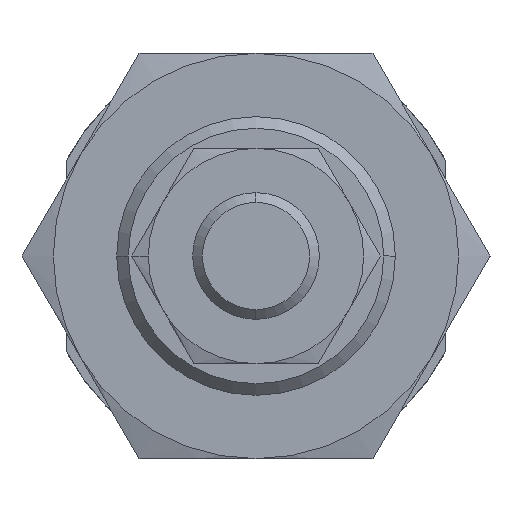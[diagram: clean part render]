
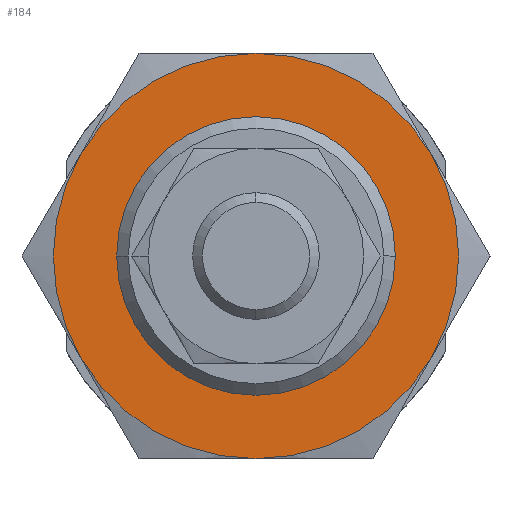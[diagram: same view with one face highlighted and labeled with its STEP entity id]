
A CAD part, left-side view. The second image highlights one B-rep face of the part: STEP entity #184.
In plain terms, the highlighted planar face has unit normal (-1, 0, 0).
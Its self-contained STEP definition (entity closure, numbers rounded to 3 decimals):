
#102 = PLANE ( 'NONE',  #3250 ) ;
#184 = ADVANCED_FACE ( 'NONE', ( #3444, #765 ), #102, .T. ) ;
#237 = CIRCLE ( 'NONE', #852, 16. ) ;
#298 = AXIS2_PLACEMENT_3D ( 'NONE', #684, #743, #3373 ) ;
#320 = CARTESIAN_POINT ( 'NONE',  ( -17.5, 0., 11. ) ) ;
#445 = DIRECTION ( 'NONE',  ( 0., 0., -1. ) ) ;
#526 = CARTESIAN_POINT ( 'NONE',  ( -17.5, 0., 0. ) ) ;
#673 = VERTEX_POINT ( 'NONE', #4201 ) ;
#684 = CARTESIAN_POINT ( 'NONE',  ( -17.5, 0., 0. ) ) ;
#707 = AXIS2_PLACEMENT_3D ( 'NONE', #526, #2490, #3765 ) ;
#716 = EDGE_CURVE ( 'NONE', #3358, #3014, #1606, .T. ) ;
#743 = DIRECTION ( 'NONE',  ( 1., 0., 0. ) ) ;
#765 = FACE_BOUND ( 'NONE', #1769, .T. ) ;
#852 = AXIS2_PLACEMENT_3D ( 'NONE', #2448, #1792, #3512 ) ;
#881 = ORIENTED_EDGE ( 'NONE', *, *, #716, .F. ) ;
#1041 = CARTESIAN_POINT ( 'NONE',  ( -17.5, 0., -16. ) ) ;
#1115 = CARTESIAN_POINT ( 'NONE',  ( -17.5, 16., 0. ) ) ;
#1143 = ORIENTED_EDGE ( 'NONE', *, *, #3553, .T. ) ;
#1170 = CARTESIAN_POINT ( 'NONE',  ( -17.5, 0., 0. ) ) ;
#1273 = ORIENTED_EDGE ( 'NONE', *, *, #2806, .F. ) ;
#1285 = EDGE_CURVE ( 'NONE', #673, #3358, #1611, .T. ) ;
#1395 = ORIENTED_EDGE ( 'NONE', *, *, #2113, .F. ) ;
#1475 = AXIS2_PLACEMENT_3D ( 'NONE', #1170, #3785, #3458 ) ;
#1541 = EDGE_CURVE ( 'NONE', #3383, #1619, #3258, .T. ) ;
#1570 = CARTESIAN_POINT ( 'NONE',  ( -17.5, 0., 0. ) ) ;
#1606 = CIRCLE ( 'NONE', #4229, 16. ) ;
#1611 = CIRCLE ( 'NONE', #298, 16. ) ;
#1619 = VERTEX_POINT ( 'NONE', #320 ) ;
#1702 = ORIENTED_EDGE ( 'NONE', *, *, #4120, .F. ) ;
#1766 = DIRECTION ( 'NONE',  ( -1., 0., 0. ) ) ;
#1769 = EDGE_LOOP ( 'NONE', ( #1143, #3573 ) ) ;
#1792 = DIRECTION ( 'NONE',  ( 1., 0., 0. ) ) ;
#1841 = DIRECTION ( 'NONE',  ( 0., 0., -1. ) ) ;
#1961 = AXIS2_PLACEMENT_3D ( 'NONE', #2683, #4261, #3929 ) ;
#1997 = DIRECTION ( 'NONE',  ( 1., 0., 0. ) ) ;
#1998 = EDGE_LOOP ( 'NONE', ( #1395, #881, #2968, #1273, #1702, #3168 ) ) ;
#2037 = CARTESIAN_POINT ( 'NONE',  ( -17.5, 13.856, 8. ) ) ;
#2070 = CARTESIAN_POINT ( 'NONE',  ( -17.5, 0., 16. ) ) ;
#2077 = CARTESIAN_POINT ( 'NONE',  ( -17.5, 0., -11. ) ) ;
#2113 = EDGE_CURVE ( 'NONE', #3014, #2368, #3820, .T. ) ;
#2246 = DIRECTION ( 'NONE',  ( 0., 0., -1. ) ) ;
#2256 = DIRECTION ( 'NONE',  ( 1., 0., 0. ) ) ;
#2368 = VERTEX_POINT ( 'NONE', #2037 ) ;
#2394 = DIRECTION ( 'NONE',  ( 0., 0., 1. ) ) ;
#2411 = CARTESIAN_POINT ( 'NONE',  ( -17.5, 0., 0. ) ) ;
#2448 = CARTESIAN_POINT ( 'NONE',  ( -17.5, 0., 0. ) ) ;
#2490 = DIRECTION ( 'NONE',  ( 1., 0., 0. ) ) ;
#2507 = CIRCLE ( 'NONE', #707, 11. ) ;
#2533 = CARTESIAN_POINT ( 'NONE',  ( -17.5, 13.856, -8. ) ) ;
#2683 = CARTESIAN_POINT ( 'NONE',  ( -17.5, 0., 0. ) ) ;
#2806 = EDGE_CURVE ( 'NONE', #3161, #673, #4177, .T. ) ;
#2884 = CARTESIAN_POINT ( 'NONE',  ( -17.5, -13.856, 8. ) ) ;
#2968 = ORIENTED_EDGE ( 'NONE', *, *, #1285, .F. ) ;
#3014 = VERTEX_POINT ( 'NONE', #2533 ) ;
#3161 = VERTEX_POINT ( 'NONE', #2884 ) ;
#3168 = ORIENTED_EDGE ( 'NONE', *, *, #3865, .F. ) ;
#3250 = AXIS2_PLACEMENT_3D ( 'NONE', #1115, #1766, #2394 ) ;
#3258 = CIRCLE ( 'NONE', #4235, 11. ) ;
#3358 = VERTEX_POINT ( 'NONE', #1041 ) ;
#3373 = DIRECTION ( 'NONE',  ( 0., 0., -1. ) ) ;
#3383 = VERTEX_POINT ( 'NONE', #2077 ) ;
#3444 = FACE_OUTER_BOUND ( 'NONE', #1998, .T. ) ;
#3458 = DIRECTION ( 'NONE',  ( 0., 0., -1. ) ) ;
#3512 = DIRECTION ( 'NONE',  ( 0., 0., -1. ) ) ;
#3553 = EDGE_CURVE ( 'NONE', #1619, #3383, #2507, .T. ) ;
#3573 = ORIENTED_EDGE ( 'NONE', *, *, #1541, .T. ) ;
#3595 = CARTESIAN_POINT ( 'NONE',  ( -17.5, 0., 0. ) ) ;
#3765 = DIRECTION ( 'NONE',  ( 0., 0., -1. ) ) ;
#3785 = DIRECTION ( 'NONE',  ( 1., 0., 0. ) ) ;
#3820 = CIRCLE ( 'NONE', #4241, 16. ) ;
#3865 = EDGE_CURVE ( 'NONE', #2368, #3921, #237, .T. ) ;
#3921 = VERTEX_POINT ( 'NONE', #2070 ) ;
#3929 = DIRECTION ( 'NONE',  ( 0., 0., -1. ) ) ;
#4030 = DIRECTION ( 'NONE',  ( 1., 0., 0. ) ) ;
#4120 = EDGE_CURVE ( 'NONE', #3921, #3161, #4168, .T. ) ;
#4168 = CIRCLE ( 'NONE', #1475, 16. ) ;
#4177 = CIRCLE ( 'NONE', #1961, 16. ) ;
#4201 = CARTESIAN_POINT ( 'NONE',  ( -17.5, -13.856, -8. ) ) ;
#4229 = AXIS2_PLACEMENT_3D ( 'NONE', #1570, #2256, #1841 ) ;
#4235 = AXIS2_PLACEMENT_3D ( 'NONE', #3595, #1997, #2246 ) ;
#4241 = AXIS2_PLACEMENT_3D ( 'NONE', #2411, #4030, #445 ) ;
#4261 = DIRECTION ( 'NONE',  ( 1., 0., 0. ) ) ;
